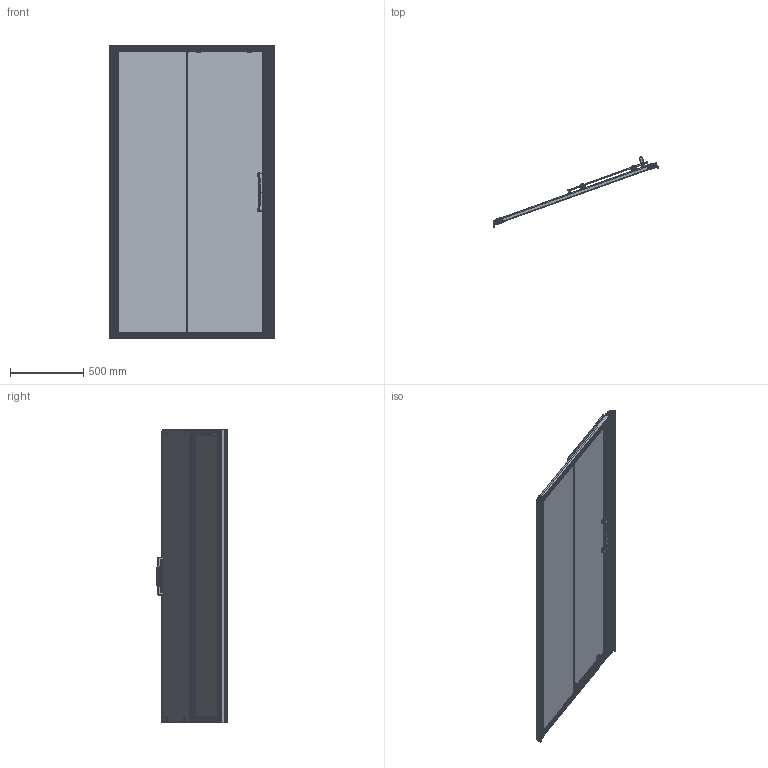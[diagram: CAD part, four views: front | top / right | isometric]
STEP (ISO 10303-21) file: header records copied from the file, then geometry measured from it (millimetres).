
FILE_DESCRIPTION(/* description */ (''),/* implementation_level */ '2;1');
FILE_NAME(/* name */ 'D:\7\KOLLE DOOR GK-662D-135\KOLLE DOOR GK-662D-135 (для рендера).stp',/* time_stamp */ '2020-07-12T19:43:52+03:00',/* author */ ('User'),/* organization */ (''),/* preprocessor_version */ 'ST-DEVELOPER v15.2',/* originating_system */ 'Autodesk Inventor 2014',/* authorisation */ '');
FILE_SCHEMA (('AUTOMOTIVE_DESIGN { 1 0 10303 214 3 1 1 }'));
Products named in the file (49): Стекло 03_2 (KUBEL DE019D); Стекло.02_1 (KUBELE DE018R); PR-18.101-01; PR-18.101; PR-18.102; PR-18.133; UP606-13; UP15.062; 15.012; STP-19.001; SCREW-304-A-(3,5 X 13)-сверло; PL-10-STP-02; Крышка \X2\04410442043E043F
043E04400430\X0\ (19); STP-19SB; UP19.616; UP606-23; PL-18.013; PL-18.017; PL-18.014; Ручка CH18-02; Ручка CH18-01; SCREW-304-A-(3,5 X 38); Ручка CH18 (2); Уголок \X2\043F043E04340434
043504400436043A0430\X0\; Упор \X2\043F043B0430044104420438
043A043E0432044B0439\X0\ (Kolle); Винт (\X2\043A04320430043404400430
0442043D0430044F\X0\ голова); Декоративный 
элемент 2 (Kolle); Заглушка \X2\04340435
043A043E04400430044204380432043D0430044F\X0\ (Kolle); Ось \X2\04370430043F0440043504410441
043E0432044B043204300435043C0430044F\X0\; Шайба  5 L \X2\0413041E04210422
\X0\ 6402-70; Пружина \X2\044104360430
04420438044F\X0\11; Пружина \X2\044104360430
04420438044F\X0\1; Гайка DIN 934 - M5 x 0,8; RL-18-DW Ролик \X2\043D04380436
043D04380439\X0\_2; Коромысло \X2\043D
04380436043D04350435\X0\; Ролик \X2\04320442043E0440043E043F043B04300441
0442043E0432044B0439\X0\ 22 мм (\X2\043E043A044004430433
043B044B0439\X0\); Подшипник d17x5 (D
5); Колесико 22 мм; RL-18-DW Ролик \X2\043D04380436
043D04380439\X0\_1; Упор \X2\043F043B0430044104420438043A043E0432044B
0439\X0\ верхний (Kolle) ...
Bounding box: 1129.3 x 479.21 x 2002.5 mm (x, y, z)
Volume: 15904774.6 mm3; surface area: 9266381.4 mm2
Topology: 129 solids, 129 shells, 6347 faces, 16946 edges, 10947 vertices
Faces by surface type: plane 2941, cylinder 1920, bspline 1034, cone 192, sphere 142, torus 118
Full cylindrical faces by diameter (mm): 1.2 x3, 2.5 x48, 3 x12, 3.079 x2, 3.1 x4, 3.4 x12, 3.5 x2, 3.57 x2, 4 x32, 4.134 x8, 4.509 x4, 5 x60, 5.1 x2, 5.2 x4, 6.7 x2, 6.8 x2, 7 x6, 8 x8, 8.2 x4, 8.4 x8, 8.8 x4, 10 x4, 11.5 x8, 12 x4, 16.3 x8, 17 x16
Entity records: 168099 total; most frequent: CARTESIAN_POINT 92936, ORIENTED_EDGE 16052, DIRECTION 14250, EDGE_CURVE 8026, VERTEX_POINT 5262, AXIS2_PLACEMENT_3D 4775, LINE 4700, VECTOR 4700
